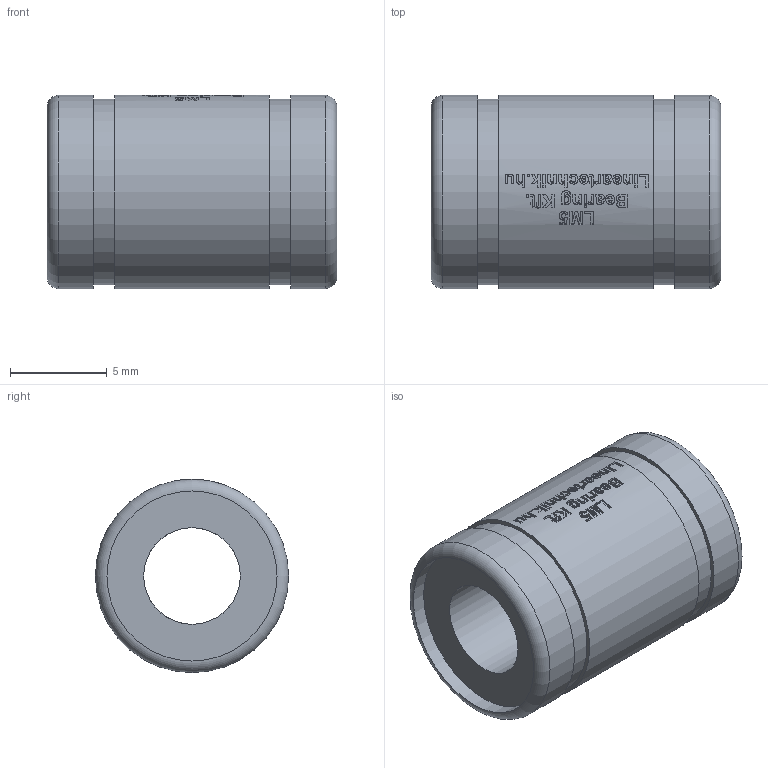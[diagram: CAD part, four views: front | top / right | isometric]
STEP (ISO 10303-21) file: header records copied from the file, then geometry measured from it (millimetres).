
FILE_DESCRIPTION(/* description */ ('Huosing for flange nuts'),/* implementation_level */ '2;1');
FILE_NAME(/* name */ 'LM5',/* time_stamp */ '2019-05-07T14:08:34+02:00',/* author */ ('VĂ©gh MĂˇtĂ©'),/* organization */ ('Bearing Kft'),/* preprocessor_version */ 'ST-DEVELOPER v16.7',/* originating_system */ 'DEX',/* authorisation */ $);
FILE_SCHEMA (('AUTOMOTIVE_DESIGN {1 0 10303 214 3 1 1}'));
Length unit declared in the file: millimetre
Products named in the file (1): LM5
Bounding box: 15 x 10 x 10 mm (x, y, z)
Volume: 802.8 mm3; surface area: 855.8 mm2
Topology: 1 solids, 1 shells, 294 faces, 743 edges, 494 vertices
Faces by surface type: plane 153, bspline 90, cylinder 49, torus 2
Full cylindrical faces by diameter (mm): 5 x1, 8.8 x2, 9.6 x2, 10 x3
Entity records: 12421 total; most frequent: CARTESIAN_POINT 5864, ORIENTED_EDGE 1454, DIRECTION 1090, EDGE_CURVE 727, VERTEX_POINT 490, LINE 400, VECTOR 400, EDGE_LOOP 351
